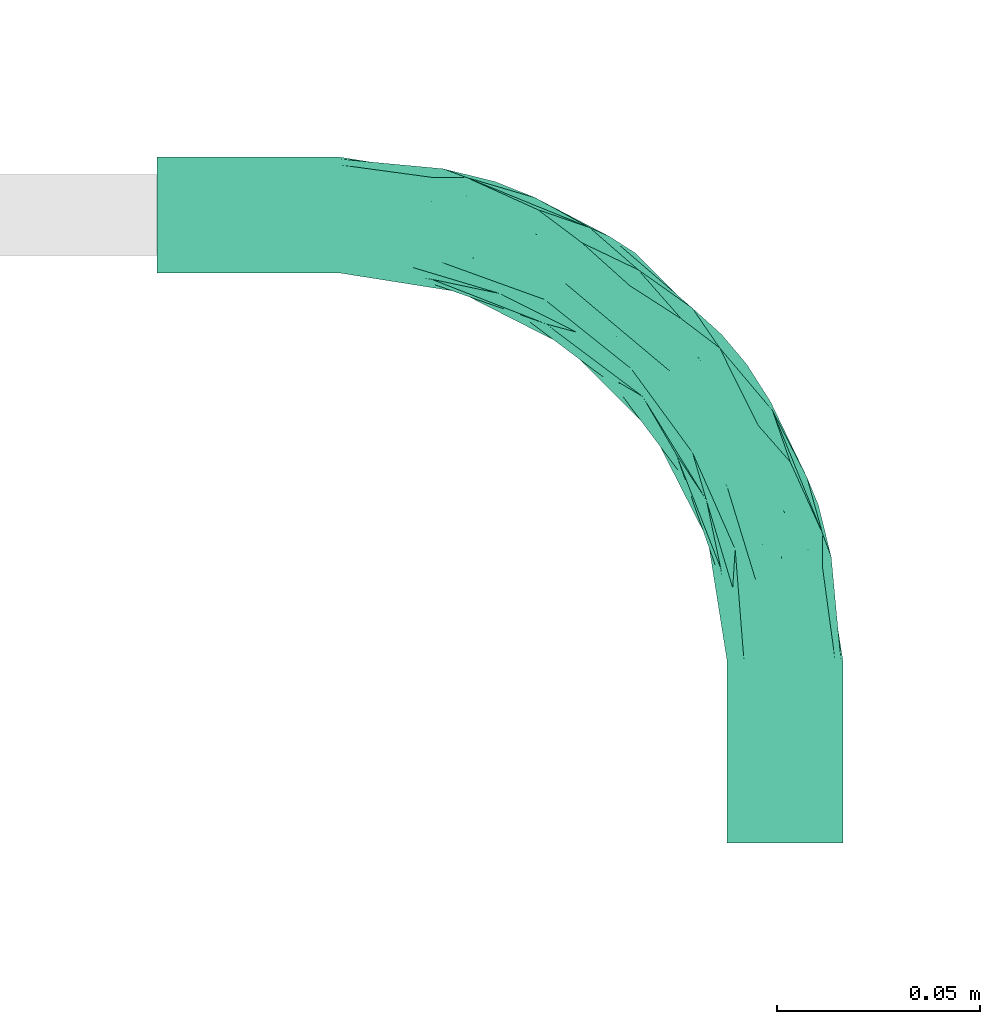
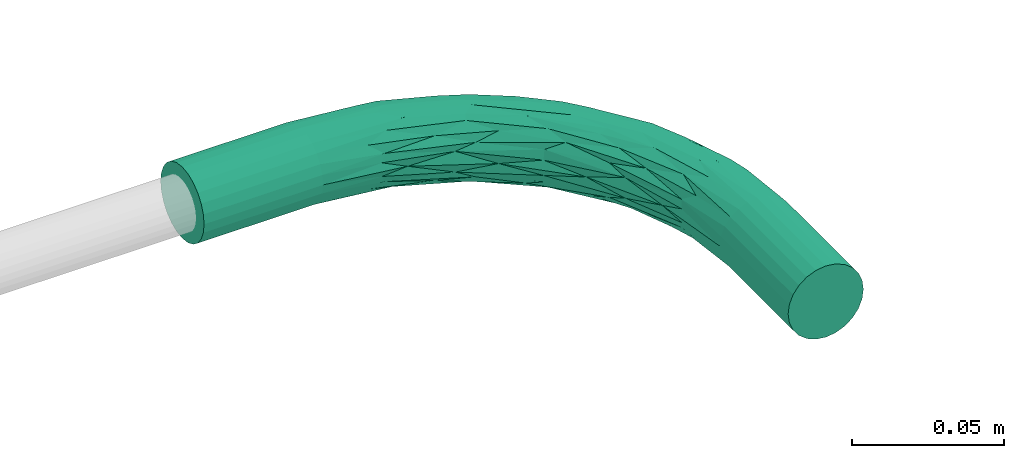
# One storey, part 22 of 51: 1 flow fitting.
"""IFC2X3 building model written with IfcOpenShell, lengths in millimetres."""

from ifc_helpers import new_model, entity, si_unit, converted_unit, derived_unit, direction, frame, origin_with_axes, place, context, subcontext, project, spatial, open_shell, surface_model, source, transform, mapped, type_object, element, save


model = new_model("IFC2X3")

# Units and contexts
model_context = context("Model", 3, precision=0.01, world=frame((0.0, 4.29681676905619e-09, 0.0)), true_north=direction((4.01073788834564e-13, 1.0)))
plan_context = context("Plan", 3, precision=0.01, world=frame((0.0, 4.29681676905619e-09, 0.0)), true_north=direction((4.01073788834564e-13, 1.0)))
body_context = subcontext(model_context, "Body", "Model", "MODEL_VIEW")
ifc_project = project(units=[converted_unit("PLANEANGLEUNIT", "DEGREE", entity("IfcPositiveLengthMeasure", 0.0174532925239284), si_unit("PLANEANGLEUNIT", "RADIAN"), dimensions=[0, 0, 0, 0, 0, 0, 0]), si_unit("AREAUNIT", "SQUARE_METRE"), si_unit("LENGTHUNIT", "METRE", prefix="MILLI"), si_unit("MASSUNIT", "GRAM", prefix="KILO"), si_unit("POWERUNIT", "WATT"), si_unit("PRESSUREUNIT", "PASCAL"), si_unit("FORCEUNIT", "NEWTON", prefix="KILO"), si_unit("ELECTRICVOLTAGEUNIT", "VOLT"), si_unit("ELECTRICCURRENTUNIT", "AMPERE"), si_unit("THERMODYNAMICTEMPERATUREUNIT", "DEGREE_CELSIUS"), si_unit("TIMEUNIT", "SECOND"), si_unit("VOLUMEUNIT", "CUBIC_METRE"), derived_unit("LINEARVELOCITYUNIT", [(si_unit("LENGTHUNIT", "METRE"), 1), (si_unit("TIMEUNIT", "SECOND"), -1)]), derived_unit("VOLUMETRICFLOWRATEUNIT", [(si_unit("VOLUMEUNIT", "CUBIC_METRE"), 1), (si_unit("TIMEUNIT", "SECOND"), -1)]), derived_unit("THERMALTRANSMITTANCEUNIT", [(si_unit("POWERUNIT", "WATT"), 1), (si_unit("THERMODYNAMICTEMPERATUREUNIT", "KELVIN"), -1), (si_unit("AREAUNIT", "SQUARE_METRE"), -1)]), derived_unit("SOUNDPRESSUREUNIT", [(si_unit("PRESSUREUNIT", "PASCAL"), 1)])], contexts=[model_context, plan_context])

# Site, building, storey
site_placement = place(None, frame((0.0, -4.29681676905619e-09, 0.0), z_axis=(0.0, 0.0, 1.0), x_axis=(1.0, 0.0, 0.0)))
site = spatial("IfcSite", under=ifc_project, at=site_placement, Name="ENGM", CompositionType="ELEMENT")
building_placement = place(site_placement, frame((0.0, 4.29681676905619e-09, 0.0), z_axis=(0.0, 0.0, 1.0), x_axis=(1.0, 0.0, 0.0)))
building = spatial("IfcBuilding", under=site, at=building_placement, Name="TI", CompositionType="ELEMENT")
storey_placement = place(building_placement, frame((0.0, 0.0, 210900.0), z_axis=(0.0, 0.0, 1.0), x_axis=(1.0, 0.0, 0.0)))
storey = spatial("IfcBuildingStorey", under=building, at=storey_placement, Name="Nivå F", CompositionType="ELEMENT", Elevation=210900.0)

# Flow fitting
cable_carrier_fitting_type = type_object("IfcCableCarrierFittingType", Name="Trekkerør, glatt bend", PredefinedType="BEND")
shared_shape = source(origin_with_axes(), body_context, "Body", "SurfaceModel", [
    surface_model("IfcShellBasedSurfaceModel", [(-154.55625, -13.78482, -3.69363), (-154.55625, 0.0, -14.27109), (-154.55625, -3.69363, -13.78482), (-154.55625, -12.35913, -7.13555), (-154.55625, -7.13555, -12.35913), (-154.55625, -10.09119, -10.09119), (-154.55625, 14.27109, 0.0), (-154.55625, 7.13555, -12.35913), (-154.55625, 12.35913, -7.13555), (-154.55625, 10.09119, -10.09119), (-154.55625, 3.69363, -13.78482), (-154.55625, 13.78482, -3.69363), (-154.55625, -14.27109, 0.0), (-154.55625, -13.78482, 3.69363), (-154.55625, 3.69363, 13.78482), (-154.55625, -7.13555, 12.35913), (-154.55625, -12.35913, 7.13555), (-154.55625, -10.09119, 10.09119), (-154.55625, 0.0, 14.27109), (-154.55625, -3.69363, 13.78482), (-154.55625, 12.35913, 7.13555), (-154.55625, 10.09119, 10.09119), (-154.55625, 13.78482, 3.69363), (-154.55625, 7.13555, 12.35913), (-109.53828, 13.78482, 3.69363), (-109.53828, 14.27109, 0.0), (-109.53828, 12.35913, 7.13555), (-109.53828, 7.13555, 12.35913), (-109.53828, 10.09119, 10.09119), (-109.53828, 3.69363, 13.78482), (-109.53828, 0.0, 14.27109), (-109.53828, -7.13555, 12.35913), (-109.53828, -3.69363, 13.78482), (-109.53828, -10.09119, 10.09119), (-109.53828, -13.78482, 3.69363), (-109.53828, -12.35913, 7.13555), (-109.53828, -14.27109, 0.0), (-109.53828, -13.78482, -3.69363), (-109.53828, -12.35913, -7.13555), (-109.53828, -7.13555, -12.35913), (-109.53828, -10.09119, -10.09119), (-109.53828, -3.69363, -13.78482), (-109.53828, 0.0, -14.27109), (-109.53828, 7.13555, -12.35913), (-109.53828, 3.69363, -13.78482), (-109.53828, 10.09119, -10.09119), (-109.53828, 13.78482, -3.69363), (-109.53828, 12.35913, -7.13555), (-5.52615, -80.75509, 14.17919), (-7.1534, -89.99414, 13.24855), (-3.69363, -109.53828, 13.78482), (-78.43143, 9.27777, 5.21969), (-86.74719, 9.26979, 8.53701), (-60.76988, 1.31586, 8.35584), (-28.15284, -38.55475, 14.18707), (-37.47603, -23.87443, 14.06701), (-54.57322, -16.38341, 14.20456), (-49.9274, -6.84288, 10.90618), (-78.33811, 4.70928, 11.16152), (-61.24691, -4.75102, 13.02092), (-84.10609, 11.40642, 2.49425), (-71.27908, 8.21143, 0.0), (-95.50078, 12.04777, 0.0), (-84.40829, -4.61635, 14.17552), (-6.52074, -51.84045, 11.43645), (-25.5172, -25.5172, 10.83717), (-21.30634, -35.06714, 12.98487), (-14.9351, -49.72791, 14.07022), (-22.8399, -22.8399, 5.72655), (-48.07555, -3.07814, 4.93607), (-36.13298, -13.4524, 8.61377), (-43.25505, -5.21821, 2.45459), (-61.42092, 4.26023, 2.69213), (-76.37759, -10.60152, 13.29307), (-84.26876, -11.72213, 11.45557), (-16.10152, -32.64981, 8.49548), (-91.7629, -12.84689, 8.81067), (-86.94002, 3.39666, 13.1113), (-78.89232, -2.16712, 14.11264), (-65.27277, -24.4813, 4.15685), (-80.0991, -18.9338, 0.0), (-53.54164, -32.46551, 0.0), (-87.03749, -15.77002, 5.64275), (-58.85951, -26.77111, 6.9074), (-70.11513, -19.34285, 8.96525), (-12.24312, -82.27842, 11.46622), (-10.09119, -109.53828, 10.09119), (-7.13555, -109.53828, 12.35913), (-88.43996, -16.36335, 2.74565), (3.69363, -109.53828, 13.78482), (7.13555, -109.53828, 12.35913), (-0.11486, -73.25678, 13.06442), (-41.06778, -41.06778, 6.49711), (-41.93843, -41.93843, 3.06688), (-12.35913, -109.53828, 7.13555), (-12.84689, -91.7629, 8.81067), (-3.51803, -45.96754, 2.3263), (-3.07814, -48.07555, 4.93607), (5.39094, -64.47541, 3.19158), (-23.06967, -23.06967, 0.0), (-36.76496, -9.37439, 0.0), (-0.81133, -84.32322, 14.11955), (0.0, -109.53828, 14.27109), (-41.69927, -29.72188, 13.44421), (13.78482, -109.53828, 3.69363), (9.27777, -78.43143, 5.21969), (12.35913, -109.53828, 7.13555), (-57.22502, -11.42573, 14.17543), (9.26979, -86.74719, 8.53701), (1.31586, -60.76988, 8.35584), (5.72038, -82.4285, 11.18319), (11.40642, -84.10609, 2.49425), (-59.15779, -20.7896, 12.14962), (-24.4813, -65.27277, 4.15685), (-32.46551, -53.54164, 0.0), (-18.9338, -80.0991, 0.0), (-14.27109, -109.53828, 0.0), (-16.36335, -88.43996, 2.74565), (-8.62571, -53.03293, 12.89354), (-15.77002, -87.03749, 5.64275), (-13.78482, -109.53828, 3.69363), (-35.02355, -44.66648, 9.39592), (-22.74629, -58.47709, 11.20332), (-37.83174, -37.83174, 11.72896), (-51.28798, -28.82677, 10.17947), (-14.20714, -66.91103, 13.32458), (10.09119, -109.53828, 10.09119), (12.04777, -95.50078, 0.0), (-26.77111, -58.85951, 6.9074), (-19.34285, -70.11513, 8.96525), (-14.02071, -58.08047, 14.23303), (-22.27171, -49.8428, 13.75381), (-38.19919, -17.37508, 12.43121), (-25.3167, -50.04426, 12.74411), (-58.12909, -18.65185, 13.32115), (-15.5265, -29.44086, 2.9254), (-54.02202, -0.58148, 0.0), (-9.37439, -36.76496, 0.0), (-0.58148, -54.02202, 0.0), (8.21143, -71.27908, 0.0), (14.27109, -109.53828, 0.0), (-82.27842, -12.24312, -11.46622), (-38.55475, -28.15284, -14.18707), (-23.87443, -37.47603, -14.06701), (-16.38341, -54.57322, -14.20456), (-91.7629, -12.84689, -8.81067), (-24.4813, -65.27277, -4.15685), (-87.03749, -15.77002, -5.64275), (-65.27277, -24.4813, -4.15685), (-88.43996, -16.36335, -2.74565), (9.27777, -78.43143, -5.21969), (13.78482, -109.53828, -3.69363), (12.35913, -109.53828, -7.13555), (-61.42092, 4.26023, -2.69213), (-84.10609, 11.40642, -2.49425), (-41.93843, -41.93843, -3.06688), (0.0, -109.53828, -14.27109), (-3.69363, -109.53828, -13.78482), (-4.61635, -84.40829, -14.17552), (-60.76988, 1.31586, -8.35584), (-78.43143, 9.27777, -5.21969), (-48.07555, -3.07814, -4.93607), (-51.84045, -6.52074, -11.43645), (-82.4285, 5.72038, -11.18319), (-86.74719, 9.26979, -8.53701), (-4.75102, -61.24691, -13.02092), (4.70928, -78.33811, -11.16152), (3.39666, -86.94002, -13.1113), (-15.5265, -29.44086, -2.9254), (-3.51803, -45.96754, -2.3263), (-73.25678, -0.11486, -13.06442), (11.40642, -84.10609, -2.49425), (-84.32322, -0.81133, -14.11955), (-11.42573, -57.22502, -14.17543), (1.31586, -60.76988, -8.35584), (-3.07814, -48.07555, -4.93607), (-89.99414, -7.1534, -13.24855), (-10.60152, -76.37759, -13.29307), (-6.84288, -49.9274, -10.90618), (-2.16712, -78.89232, -14.11264), (-25.5172, -25.5172, -10.83717), (-13.4524, -36.13298, -8.61377), (-16.36335, -88.43996, -2.74565), (-13.78482, -109.53828, -3.69363), (3.69363, -109.53828, -13.78482), (-19.34285, -70.11513, -8.96525), (-15.77002, -87.03749, -5.64275), (-26.77111, -58.85951, -6.9074), (-12.35913, -109.53828, -7.13555), (-80.75509, -5.52615, -14.17919), (9.26979, -86.74719, -8.53701), (10.09119, -109.53828, -10.09119), (-11.72213, -84.26876, -11.45557), (-7.13555, -109.53828, -12.35913), (-10.09119, -109.53828, -10.09119), (-35.06714, -21.30634, -12.98487), (-32.64981, -16.10152, -8.49548), (-41.06778, -41.06777, -6.49711), (-29.72188, -41.69927, -13.44421), (7.13555, -109.53828, -12.35913), (-66.91103, -14.20714, -13.32458), (-58.47709, -22.74629, -11.20332), (-22.8399, -22.8399, -5.72655), (-49.72791, -14.9351, -14.07022), (-37.83174, -37.83174, -11.72896), (-28.82677, -51.28798, -10.17947), (-44.66648, -35.02355, -9.39592), (-20.7896, -59.15779, -12.14962), (-43.25505, -5.21821, -2.45459), (-53.03293, -8.62571, -12.89354), (-12.84689, -91.7629, -8.81067), (-58.85951, -26.77111, -6.9074), (-70.11513, -19.34285, -8.96525), (-58.08047, -14.02071, -14.23303), (-49.8428, -22.27171, -13.75381), (-17.37508, -38.19919, -12.43121), (-50.04426, -25.3167, -12.74411), (-18.65185, -58.12909, -13.32115), (5.39094, -64.47541, -3.19158), (0.0, -154.55625, -14.27109), (13.78482, -154.55625, -3.69363), (-3.69363, -154.55625, -13.78482), (-7.13555, -154.55625, -12.35913), (-12.35913, -154.55625, -7.13555), (14.27109, -154.55625, 0.0), (-10.09119, -154.55625, -10.09119), (-14.27109, -154.55625, 0.0), (10.09119, -154.55625, -10.09119), (12.35913, -154.55625, -7.13555), (7.13555, -154.55625, -12.35913), (3.69363, -154.55625, -13.78482), (-13.78482, -154.55625, -3.69363), (-13.78482, -154.55625, 3.69363), (13.78482, -154.55625, 3.69363), (-12.35913, -154.55625, 7.13555), (-7.13555, -154.55625, 12.35913), (-10.09119, -154.55625, 10.09119), (-3.69363, -154.55625, 13.78482), (0.0, -154.55625, 14.27109), (12.35913, -154.55625, 7.13555), (10.09119, -154.55625, 10.09119), (3.69363, -154.55625, 13.78482), (7.13555, -154.55625, 12.35913)], [open_shell([[[0, 1, 2]], [[3, 2, 4]], [[3, 0, 2]], [[3, 4, 5]], [[1, 0, 6]], [[7, 8, 9]], [[7, 10, 1]], [[7, 11, 8]], [[7, 1, 11]], [[6, 11, 1]], [[0, 12, 6]], [[6, 13, 14]], [[15, 13, 16]], [[14, 13, 15]], [[15, 16, 17]], [[18, 15, 19]], [[20, 14, 21]], [[22, 6, 20]], [[21, 14, 23]], [[14, 20, 6]], [[15, 18, 14]], [[6, 12, 13]], [[24, 25, 22]], [[24, 20, 26]], [[27, 28, 23]], [[21, 28, 26]], [[29, 27, 14]], [[6, 22, 25]], [[22, 20, 24]], [[20, 21, 26]], [[21, 23, 28]], [[27, 23, 14]], [[14, 18, 29]], [[18, 30, 29]], [[31, 32, 15]], [[31, 17, 33]], [[34, 35, 13]], [[16, 35, 33]], [[36, 34, 12]], [[30, 19, 32]], [[19, 15, 32]], [[18, 19, 30]], [[15, 17, 31]], [[17, 16, 33]], [[35, 16, 13]], [[13, 12, 34]], [[37, 36, 0]], [[37, 3, 38]], [[39, 40, 4]], [[5, 40, 38]], [[41, 39, 2]], [[12, 0, 36]], [[0, 3, 37]], [[3, 5, 38]], [[5, 4, 40]], [[39, 4, 2]], [[2, 1, 41]], [[1, 42, 41]], [[43, 44, 7]], [[43, 9, 45]], [[46, 47, 11]], [[8, 47, 45]], [[25, 46, 6]], [[42, 10, 44]], [[10, 7, 44]], [[1, 10, 42]], [[7, 9, 43]], [[9, 8, 45]], [[47, 8, 11]], [[11, 6, 46]], [[48, 49, 50]], [[51, 52, 53]], [[54, 55, 56]], [[57, 58, 59]], [[60, 61, 62]], [[30, 32, 63]], [[28, 27, 58]], [[60, 62, 24]], [[64, 65, 66]], [[58, 52, 28]], [[66, 55, 67]], [[68, 69, 70]], [[69, 71, 72]], [[31, 73, 32]], [[51, 24, 26]], [[74, 31, 33]], [[70, 65, 75]], [[76, 33, 35]], [[77, 29, 78]], [[53, 69, 51]], [[79, 80, 81]], [[82, 83, 84]], [[85, 86, 87]], [[88, 34, 36]], [[82, 35, 34]], [[89, 90, 91]], [[92, 79, 93]], [[94, 86, 95]], [[29, 77, 27]], [[96, 97, 98]], [[71, 99, 100]], [[30, 78, 29]], [[101, 48, 102]], [[53, 58, 57]], [[103, 54, 56]], [[89, 101, 102]], [[104, 105, 106]], [[50, 49, 87]], [[55, 59, 107]], [[108, 106, 105]], [[109, 105, 97]], [[90, 110, 91]], [[57, 65, 70]], [[105, 104, 111]], [[73, 56, 63]], [[74, 84, 112]], [[113, 114, 115]], [[114, 113, 93]], [[30, 63, 78]], [[116, 117, 115]], [[102, 48, 50]], [[52, 26, 28]], [[118, 64, 66]], [[119, 120, 94]], [[119, 113, 117]], [[93, 81, 114]], [[121, 122, 123]], [[123, 124, 121]], [[85, 125, 122]], [[95, 86, 85]], [[64, 110, 109]], [[73, 31, 74]], [[126, 110, 90]], [[108, 126, 106]], [[59, 58, 77]], [[103, 112, 123]], [[109, 97, 75]], [[127, 111, 104]], [[34, 88, 82]], [[79, 92, 83]], [[113, 128, 92]], [[129, 119, 95]], [[130, 131, 125]], [[91, 67, 101]], [[129, 85, 122]], [[125, 85, 49]], [[91, 110, 64]], [[109, 110, 108]], [[66, 67, 118]], [[75, 65, 64]], [[73, 74, 112]], [[84, 74, 76]], [[107, 78, 63]], [[63, 32, 73]], [[130, 48, 101]], [[101, 89, 91]], [[55, 54, 67]], [[57, 132, 65]], [[56, 55, 107]], [[59, 55, 132]], [[125, 48, 130]], [[133, 122, 125]], [[103, 56, 134]], [[124, 123, 112]], [[73, 112, 134]], [[125, 131, 133]], [[72, 60, 51]], [[71, 69, 68]], [[135, 68, 97]], [[96, 135, 97]], [[76, 35, 82]], [[80, 79, 88]], [[120, 119, 117]], [[128, 113, 119]], [[81, 93, 79]], [[92, 93, 113]], [[27, 77, 58]], [[59, 77, 78]], [[26, 52, 51]], [[53, 52, 58]], [[126, 108, 110]], [[109, 108, 105]], [[53, 57, 70]], [[132, 66, 65]], [[53, 70, 69]], [[68, 70, 75]], [[68, 75, 97]], [[109, 75, 64]], [[87, 49, 85]], [[125, 49, 48]], [[121, 128, 129]], [[133, 123, 122]], [[122, 121, 129]], [[121, 124, 83]], [[92, 121, 83]], [[84, 124, 112]], [[133, 103, 123]], [[54, 103, 131]], [[133, 131, 103]], [[130, 54, 131]], [[130, 67, 54]], [[67, 130, 101]], [[82, 88, 79]], [[80, 88, 36]], [[120, 117, 116]], [[115, 117, 113]], [[66, 132, 55]], [[132, 57, 59]], [[62, 25, 24]], [[61, 60, 72]], [[51, 60, 24]], [[71, 100, 136]], [[69, 72, 51]], [[136, 72, 71]], [[99, 135, 137]], [[71, 135, 99]], [[96, 137, 135]], [[68, 135, 71]], [[138, 137, 96]], [[98, 111, 139]], [[136, 61, 72]], [[139, 138, 98]], [[139, 111, 127]], [[104, 140, 127]], [[105, 111, 98]], [[105, 98, 97]], [[138, 96, 98]], [[33, 76, 74]], [[84, 76, 82]], [[94, 95, 119]], [[129, 95, 85]], [[79, 83, 82]], [[84, 83, 124]], [[92, 128, 121]], [[129, 128, 119]], [[118, 91, 64]], [[91, 118, 67]], [[56, 107, 63]], [[78, 107, 59]], [[73, 134, 56]], [[134, 112, 103]], [[39, 141, 40]], [[142, 143, 144]], [[145, 40, 141]], [[146, 115, 114]], [[147, 148, 149]], [[150, 151, 152]], [[36, 149, 80]], [[153, 154, 61]], [[148, 81, 80]], [[81, 148, 155]], [[156, 157, 158]], [[38, 147, 37]], [[159, 160, 161]], [[162, 163, 159]], [[164, 47, 160]], [[165, 166, 167]], [[160, 46, 154]], [[168, 137, 169]], [[170, 43, 163]], [[171, 127, 151]], [[42, 44, 172]], [[143, 165, 173]], [[46, 160, 47]], [[170, 44, 43]], [[174, 175, 150]], [[47, 164, 45]], [[176, 39, 41]], [[177, 144, 158]], [[174, 166, 178]], [[156, 158, 179]], [[155, 114, 81]], [[178, 180, 181]], [[182, 183, 116]], [[156, 179, 184]], [[185, 186, 187]], [[183, 186, 188]], [[189, 176, 41]], [[190, 152, 191]], [[192, 193, 194]], [[162, 180, 195]], [[179, 167, 184]], [[45, 163, 43]], [[181, 180, 196]], [[155, 197, 146]], [[198, 142, 144]], [[199, 184, 167]], [[190, 191, 166]], [[141, 200, 201]], [[193, 177, 157]], [[181, 202, 175]], [[199, 166, 191]], [[203, 195, 143]], [[165, 178, 166]], [[204, 205, 206]], [[139, 127, 171]], [[42, 189, 41]], [[198, 207, 204]], [[190, 174, 150]], [[177, 193, 192]], [[168, 202, 208]], [[206, 201, 204]], [[189, 42, 172]], [[209, 162, 195]], [[194, 188, 210]], [[192, 185, 207]], [[38, 40, 145]], [[159, 161, 196]], [[62, 154, 46]], [[183, 182, 186]], [[146, 197, 187]], [[148, 211, 197]], [[212, 147, 145]], [[213, 214, 200]], [[170, 203, 172]], [[212, 141, 201]], [[200, 141, 176]], [[170, 163, 162]], [[159, 163, 164]], [[195, 203, 209]], [[196, 180, 162]], [[177, 192, 207]], [[185, 192, 210]], [[173, 179, 158]], [[158, 157, 177]], [[213, 189, 172]], [[172, 44, 170]], [[143, 142, 203]], [[178, 215, 180]], [[144, 143, 173]], [[165, 143, 215]], [[200, 189, 213]], [[216, 201, 200]], [[198, 144, 217]], [[205, 204, 207]], [[177, 207, 217]], [[200, 214, 216]], [[218, 171, 150]], [[168, 175, 202]], [[168, 208, 99]], [[153, 136, 208]], [[210, 188, 186]], [[115, 146, 182]], [[37, 147, 149]], [[211, 148, 147]], [[114, 155, 146]], [[197, 155, 148]], [[199, 167, 166]], [[165, 167, 179]], [[152, 190, 150]], [[174, 190, 166]], [[45, 164, 163]], [[159, 164, 160]], [[174, 178, 181]], [[215, 195, 180]], [[174, 181, 175]], [[202, 181, 196]], [[202, 196, 161]], [[159, 196, 162]], [[39, 176, 141]], [[200, 176, 189]], [[206, 211, 212]], [[216, 204, 201]], [[201, 206, 212]], [[206, 205, 187]], [[197, 206, 187]], [[185, 205, 207]], [[216, 198, 204]], [[142, 198, 214]], [[216, 214, 198]], [[213, 142, 214]], [[213, 203, 142]], [[203, 213, 172]], [[186, 182, 146]], [[115, 182, 116]], [[37, 149, 36]], [[80, 149, 148]], [[195, 215, 143]], [[215, 178, 165]], [[61, 154, 62]], [[46, 25, 62]], [[161, 160, 153]], [[154, 153, 160]], [[161, 153, 208]], [[161, 208, 202]], [[127, 140, 151]], [[137, 168, 99]], [[99, 208, 100]], [[175, 168, 169]], [[150, 175, 218]], [[169, 138, 218]], [[100, 208, 136]], [[169, 137, 138]], [[153, 61, 136]], [[218, 138, 139]], [[150, 171, 151]], [[171, 218, 139]], [[169, 218, 175]], [[194, 210, 192]], [[185, 210, 186]], [[38, 145, 147]], [[212, 145, 141]], [[146, 187, 186]], [[185, 187, 205]], [[197, 211, 206]], [[212, 211, 147]], [[209, 170, 162]], [[170, 209, 203]], [[144, 173, 158]], [[179, 173, 165]], [[177, 217, 144]], [[217, 207, 198]], [[219, 220, 221]], [[222, 221, 223]], [[224, 223, 221]], [[225, 222, 223]], [[224, 226, 223]], [[227, 228, 229]], [[219, 230, 229]], [[228, 220, 229]], [[220, 219, 229]], [[221, 220, 224]], [[226, 231, 223]], [[232, 224, 233]], [[234, 232, 235]], [[235, 232, 233]], [[236, 234, 235]], [[237, 235, 238]], [[239, 240, 233]], [[241, 233, 240]], [[242, 241, 240]], [[241, 235, 233]], [[241, 238, 235]], [[226, 224, 232]], [[233, 224, 104]], [[233, 106, 239]], [[242, 240, 90]], [[126, 240, 239]], [[241, 242, 89]], [[140, 104, 224]], [[104, 106, 233]], [[106, 126, 239]], [[126, 90, 240]], [[242, 90, 89]], [[89, 102, 241]], [[102, 238, 241]], [[235, 237, 87]], [[235, 86, 236]], [[232, 234, 120]], [[94, 234, 236]], [[226, 232, 116]], [[238, 50, 237]], [[50, 87, 237]], [[102, 50, 238]], [[87, 86, 235]], [[86, 94, 236]], [[234, 94, 120]], [[120, 116, 232]], [[231, 226, 183]], [[231, 188, 223]], [[222, 225, 193]], [[194, 225, 223]], [[221, 222, 157]], [[116, 183, 226]], [[183, 188, 231]], [[188, 194, 223]], [[194, 193, 225]], [[222, 193, 157]], [[157, 156, 221]], [[156, 219, 221]], [[229, 230, 199]], [[229, 191, 227]], [[220, 228, 151]], [[152, 228, 227]], [[224, 220, 140]], [[219, 184, 230]], [[184, 199, 230]], [[156, 184, 219]], [[199, 191, 229]], [[191, 152, 227]], [[228, 152, 151]], [[151, 140, 220]]])]),
])
flow_fitting_placement = place(storey_placement, frame((611788.38779, 697393.2805, -110.0), z_axis=(0.0, 0.0, 1.0), x_axis=(1.0, 0.0, 0.0)))
element("IfcFlowFitting", 1, at=flow_fitting_placement, inside=storey, type_object=cable_carrier_fitting_type, Name="Trekkerør, glatt bend", context=body_context, shape_type="MappedRepresentation", body=[
    mapped(shared_shape, transform((0.0, 0.0, 0.0), scale=1.0)),
])

save(model, "model.ifc")
